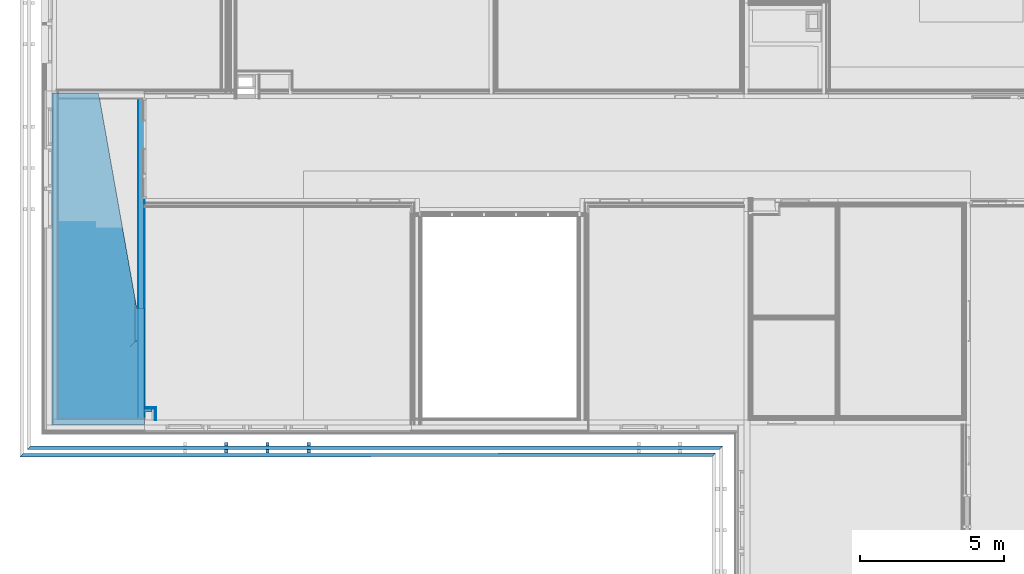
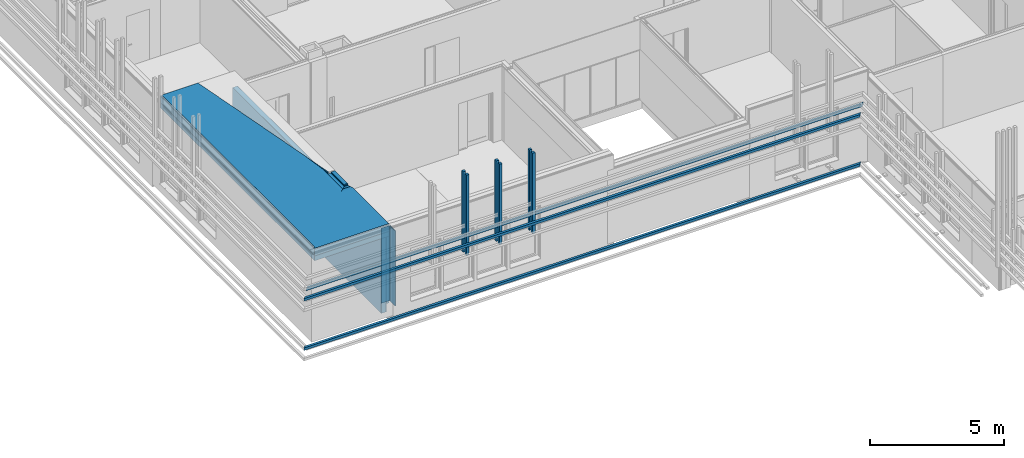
# One storey, part 80 of 139: 14 building element parts, 5 discrete accessories, 1 opening, 4 elements without a shape of their own.
"""IFC2X3 building model written with IfcOpenShell, lengths in millimetres."""

from ifc_helpers import new_model, entity, si_unit, converted_unit, derived_unit, money_unit, direction, frame, origin_with_axes, place, context, subcontext, project, spatial, faceted_brep, material, material_list, type_object, element, aggregate, save


model = new_model("IFC2X3")

# Units and contexts
model_context = context("Model", 3, precision=0.01, world=origin_with_axes(), true_north=direction((0.0, 1.0)))
body_context = subcontext(model_context, "Body", "Model", "MODEL_VIEW")
ifc_project = project(units=[si_unit("LENGTHUNIT", "METRE", prefix="MILLI"), si_unit("AREAUNIT", "SQUARE_METRE"), si_unit("VOLUMEUNIT", "CUBIC_METRE"), converted_unit("PLANEANGLEUNIT", "DEGREE", entity("IfcPlaneAngleMeasure", 0.0174532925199), si_unit("PLANEANGLEUNIT", "RADIAN"), dimensions=[0, 0, 0, 0, 0, 0, 0]), money_unit("EUR"), converted_unit("TIMEUNIT", "Year", entity("IfcTimeMeasure", 31556926.0), si_unit("TIMEUNIT", "SECOND"), dimensions=[0, 0, 1, 0, 0, 0, 0]), si_unit("MASSUNIT", "GRAM", prefix="KILO"), si_unit("THERMODYNAMICTEMPERATUREUNIT", "DEGREE_CELSIUS"), si_unit("LUMINOUSINTENSITYUNIT", "LUMEN"), si_unit("ENERGYUNIT", "JOULE", prefix="MEGA"), derived_unit("THERMALCONDUCTANCEUNIT", [(si_unit("POWERUNIT", "WATT"), 1), (si_unit("LENGTHUNIT", "METRE"), -1), (si_unit("THERMODYNAMICTEMPERATUREUNIT", "KELVIN"), -1)]), derived_unit("SPECIFICHEATCAPACITYUNIT", [(si_unit("ENERGYUNIT", "JOULE"), 1), (si_unit("MASSUNIT", "GRAM", prefix="KILO"), -1), (si_unit("THERMODYNAMICTEMPERATUREUNIT", "KELVIN"), -1)]), derived_unit("MASSDENSITYUNIT", [(si_unit("MASSUNIT", "GRAM", prefix="KILO"), 1), (si_unit("VOLUMEUNIT", "CUBIC_METRE"), -1)])], contexts=[model_context])

# Site, building, storey
site_placement = place(None, origin_with_axes())
site = spatial("IfcSite", under=ifc_project, at=site_placement, Name="Kolde pst 67a", CompositionType="ELEMENT")
building_placement = place(site_placement, origin_with_axes())
building = spatial("IfcBuilding", under=site, at=building_placement, Name="Riigigümnaasium", CompositionType="ELEMENT")
storey_placement = place(building_placement, frame((0.0, 0.0, 4600.0), z_axis=(0.0, 0.0, 1.0), x_axis=(1.0, 0.0, 0.0)))
storey = spatial("IfcBuildingStorey", under=building, at=storey_placement, Name="2. korrus", CompositionType="ELEMENT", Elevation=4600.0)

# Discrete accessories
ifc_material_1 = material(Name="_VÄLISVIIMISTLUS - sõrmjätkatud puitprussid 120x115mm, liitekohad vähemärgatavad, Platowood sõrmjätkatud kuusk või samaväärne; eeltöödeldud tuletõkkevõõbaga, tuletundlikkus B-s1, d0, Woodsafe Exterior WFX™ või samaväärne; kinnitused vastavalt EK osale")
ifc_material_list = material_list([ifc_material_1, ifc_material_1])
discrete_accessory_type_1 = type_object("IfcDiscreteAccessoryType", Name="1+paiksekaitse 4 tk nihkes 2 370 x 355")
discrete_accessory_1_placement = place(storey_placement, frame((-323.006615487, 47673.7129518, 2630.0), z_axis=(0.0, 0.0, 1.0), x_axis=(0.00030565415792, -0.999999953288, 0.0)))
element("IfcDiscreteAccessory", 1, at=discrete_accessory_1_placement, inside=storey, type_object=discrete_accessory_type_1, material=ifc_material_list, Name="Päikesevarjestus", context=body_context, shape_type="Brep", body=[
    faceted_brep([(495.0, 1345.3259295, 357.5), (493.447495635, 1345.32649514, 357.364173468), (493.489394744, 1460.32648751, 357.367839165), (495.0, 1460.32593714, 357.5), (495.0, 2060.31977462, 357.5), (493.66588954, 2060.3201824, 357.383280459), (493.701039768, 2175.32017703, 357.386355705), (495.0, 2175.31977999, 357.5), (495.0, 2775.32748314, 357.5), (493.937983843, 2775.32787008, 357.407085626), (493.979882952, 2890.32786245, 357.410751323), (495.0, 2890.32749078, 357.5), (495.0, 3490.31984142, 357.5), (494.102974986, 3490.3201156, 357.42152048), (494.138125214, 3605.32011023, 357.424595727), (495.0, 3605.31984679, 357.5), (495.0, 4205.32757559, 357.5), (494.42847155, 4205.32778382, 357.44999774), (494.470370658, 4320.32777619, 357.453663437), (495.0, 4320.32758322, 357.5), (495.0, 4920.31990822, 357.5), (494.540060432, 4920.3200488, 357.459760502), (494.57521066, 5035.32004343, 357.462835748), (495.0, 5035.31991359, 357.5), (495.0, 5635.32912923, 357.5), (494.918959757, 5635.32915876, 357.492909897), (494.960858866, 5750.32915113, 357.496575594), (495.0, 5750.32913687, 357.5), (495.0, 6350.31997502, 357.5), (494.977145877, 6350.319982, 357.498000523), (495.0, 6425.09115995, 357.5), (495.0, 23502.8623069, 357.5), (375.0, 23622.898991, 347.001360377), (375.0, -375.114708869, 347.001360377), (495.0, -495.151415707, 357.5), (495.0, 630.319707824, 357.5), (493.228804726, 630.320249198, 357.345040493), (493.263954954, 745.320243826, 357.348115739), (495.0, 745.319713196, 357.5), (495.0, 1345.3259295, 242.5), (493.447495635, 1345.32649514, 242.5), (493.489394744, 1460.32648751, 242.5), (495.0, 1460.32593714, 242.5), (495.0, 2060.31977462, 242.5), (493.66588954, 2060.3201824, 242.5), (493.701039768, 2175.32017703, 242.5), (495.0, 2175.31977999, 242.5), (495.0, 2775.32748314, 242.5), (493.937983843, 2775.32787008, 242.5), (493.979882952, 2890.32786245, 242.5), (495.0, 2890.32749078, 242.5), (495.0, 3490.31984142, 242.5), (494.102974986, 3490.3201156, 242.5), (494.138125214, 3605.32011023, 242.5), (495.0, 3605.31984679, 242.5), (495.0, 4205.32757559, 242.5), (494.42847155, 4205.32778382, 242.5), (494.470370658, 4320.32777619, 242.5), (495.0, 4320.32758322, 242.5), (495.0, 4920.31990822, 242.5), (494.540060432, 4920.3200488, 242.5), (494.57521066, 5035.32004343, 242.5), (495.0, 5035.31991359, 242.5), (495.0, 5635.32912923, 242.5), (494.918959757, 5635.32915876, 242.5), (494.960858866, 5750.32915113, 242.5), (495.0, 5750.32913687, 242.5), (495.0, 6350.31997502, 242.5), (494.977145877, 6350.319982, 242.5), (495.0, 6425.09115995, 242.5), (495.0, 23502.8623069, 242.5), (375.0, 23622.898991, 242.5), (375.0, -375.114708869, 242.5), (495.0, -495.151415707, 242.5), (495.0, 630.319707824, 242.5), (493.228804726, 630.320249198, 242.5), (493.263954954, 745.320243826, 242.5), (495.0, 745.319713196, 242.5)], [[[0, 1, 2, 3, 4, 5, 6, 7, 8, 9, 10, 11, 12, 13, 14, 15, 16, 17, 18, 19, 20, 21, 22, 23, 24, 25, 26, 27, 28, 29, 30, 31, 32, 33, 34, 35, 36, 37, 38]], [[1, 0, 39, 40]], [[2, 1, 40, 41]], [[3, 2, 41, 42]], [[3, 42, 43, 4]], [[5, 4, 43, 44]], [[6, 5, 44, 45]], [[7, 6, 45, 46]], [[47, 8, 7, 46]], [[9, 8, 47, 48]], [[10, 9, 48, 49]], [[11, 10, 49, 50]], [[11, 50, 51, 12]], [[13, 12, 51, 52]], [[14, 13, 52, 53]], [[15, 14, 53, 54]], [[55, 16, 15, 54]], [[17, 16, 55, 56]], [[18, 17, 56, 57]], [[19, 18, 57, 58]], [[19, 58, 59, 20]], [[21, 20, 59, 60]], [[22, 21, 60, 61]], [[23, 22, 61, 62]], [[63, 24, 23, 62]], [[25, 24, 63, 64]], [[26, 25, 64, 65]], [[27, 26, 65, 66]], [[27, 66, 67, 28]], [[29, 28, 67, 68]], [[69, 30, 29, 68]], [[30, 69, 70, 31]], [[71, 32, 31, 70]], [[71, 72, 33, 32]], [[72, 73, 34, 33]], [[74, 35, 34, 73]], [[36, 35, 74, 75]], [[37, 36, 75, 76]], [[38, 37, 76, 77]], [[39, 0, 38, 77]], [[40, 39, 77, 76, 75, 74, 73, 72, 71, 70, 69, 68, 67, 66, 65, 64, 63, 62, 61, 60, 59, 58, 57, 56, 55, 54, 53, 52, 51, 50, 49, 48, 47, 46, 45, 44, 43, 42, 41]]]),
    faceted_brep([(745.0, 1345.23484448, 117.5), (743.447479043, 1345.23541012, 117.364172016), (743.489378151, 1460.23540249, 117.367837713), (745.0, 1460.23485211, 117.5), (745.0, 2775.23639812, 117.5), (743.93796725, 2775.23678506, 117.407084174), (743.979866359, 2890.23677743, 117.410749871), (745.0, 2890.23640575, 117.5), (745.0, 4205.23649057, 117.5), (744.428454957, 4205.2366988, 117.449996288), (744.470354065, 4320.23669117, 117.453661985), (745.0, 4320.2364982, 117.5), (745.0, 5635.23804421, 117.5), (744.918943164, 5635.23807374, 117.492908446), (744.960842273, 5750.23806611, 117.496574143), (745.0, 5750.23805184, 117.5), (745.0, 23252.7858817, 117.5), (625.0, 23372.8225658, 107.001360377), (625.0, -625.191181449, 107.001360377), (745.0, -745.227888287, 117.5), (745.0, 1345.23484448, 2.5), (743.447479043, 1345.23541012, 2.5), (743.489378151, 1460.23540249, 2.5), (745.0, 1460.23485211, 2.5), (745.0, 2775.23639812, 2.5), (743.93796725, 2775.23678506, 2.5), (743.979866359, 2890.23677743, 2.5), (745.0, 2890.23640575, 2.5), (745.0, 4205.23649057, 2.5), (744.428454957, 4205.2366988, 2.5), (744.470354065, 4320.23669117, 2.5), (745.0, 4320.2364982, 2.5), (745.0, 5635.23804421, 2.5), (744.918943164, 5635.23807374, 2.5), (744.960842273, 5750.23806611, 2.5), (745.0, 5750.23805184, 2.5), (745.0, 23252.7858817, 2.5), (625.0, 23372.8225658, 2.5), (625.0, -625.191181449, 2.5), (745.0, -745.227888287, 2.5)], [[[0, 1, 2, 3, 4, 5, 6, 7, 8, 9, 10, 11, 12, 13, 14, 15, 16, 17, 18, 19]], [[1, 0, 20, 21]], [[2, 1, 21, 22]], [[3, 2, 22, 23]], [[3, 23, 24, 4]], [[5, 4, 24, 25]], [[6, 5, 25, 26]], [[7, 6, 26, 27]], [[7, 27, 28, 8]], [[9, 8, 28, 29]], [[10, 9, 29, 30]], [[11, 10, 30, 31]], [[11, 31, 32, 12]], [[13, 12, 32, 33]], [[14, 13, 33, 34]], [[15, 14, 34, 35]], [[15, 35, 36, 16]], [[37, 17, 16, 36]], [[37, 38, 18, 17]], [[38, 39, 19, 18]], [[20, 0, 19, 39]], [[21, 20, 39, 38, 37, 36, 35, 34, 33, 32, 31, 30, 29, 28, 27, 26, 25, 24, 23, 22]]]),
])
discrete_accessory_type_2 = type_object("IfcDiscreteAccessoryType", Name="1+paiksekaitse 3 370 x 115")
for number, where, z_axis, x_axis in (
    (2, (6144.9643617, 46713.6768307, 2150.0), (0.0, 0.0, 1.0), (0.0, 1.0, 0.0)),
    (3, (7574.9643617, 46713.6768307, 2150.0), (0.0, 0.0, 1.0), (0.0, 1.0, 0.0)),
    (4, (9004.9643617, 46713.6768307, 2150.0), (0.0, 0.0, 1.0), (0.0, 1.0, 0.0)),
):
    element("IfcDiscreteAccessory", number, at=place(storey_placement, frame(where, z_axis=z_axis, x_axis=x_axis)), inside=storey, type_object=discrete_accessory_type_2, material=ifc_material_list, Name="Päikesevarjestus", context=body_context, shape_type="Brep", body=[
        faceted_brep([(467.0, 117.5, 0.0), (347.0, 117.5, 0.0), (347.0, 117.5, 3670.0), (467.0, 117.5, 3670.0), (467.0, 2.5, 0.0), (347.0, 2.5, 0.0), (347.0, 2.5, 3670.0), (467.0, 2.5, 3670.0)], [[[0, 1, 2, 3]], [[0, 4, 5, 1]], [[1, 5, 6, 2]], [[3, 2, 6, 7]], [[4, 0, 3, 7]], [[5, 4, 7, 6]]]),
        faceted_brep([(717.0, 117.5, 0.0), (597.0, 117.5, 0.0), (597.0, 117.5, 3670.0), (717.0, 117.5, 3670.0), (717.0, 2.5, 0.0), (597.0, 2.5, 0.0), (597.0, 2.5, 3670.0), (717.0, 2.5, 3670.0)], [[[0, 1, 2, 3]], [[0, 4, 5, 1]], [[1, 5, 6, 2]], [[3, 2, 6, 7]], [[4, 0, 3, 7]], [[5, 4, 7, 6]]]),
    ])
discrete_accessory_type_3 = type_object("IfcDiscreteAccessoryType", Name="1+paiksekaitse 4 tk nihkes 1 120 x 115")
discrete_accessory_2_placement = place(storey_placement, frame((-323.006615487, 47673.7155051, 380.0), z_axis=(0.0, 0.0, 1.0), x_axis=(0.000305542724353, -0.999999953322, 0.0)))
element("IfcDiscreteAccessory", 5, at=discrete_accessory_2_placement, inside=storey, type_object=discrete_accessory_type_3, material=ifc_material_1, Name="Päikesevarjestus", context=body_context, shape_type="Brep", body=[
    faceted_brep([(745.0, -745.227805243, 117.5), (745.0, 1345.23492759, 117.5), (743.449882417, 1345.23549219, 117.364382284), (743.49176871, 1460.23548456, 117.36804686), (745.0, 1460.23493522, 117.5), (745.0, 2775.23648117, 117.5), (743.940211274, 2775.23686718, 117.407280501), (743.982097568, 2890.23685955, 117.410945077), (745.0, 2890.2364888, 117.5), (745.0, 4205.23657356, 117.5), (744.430539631, 4205.23678098, 117.450178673), (744.472425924, 4320.23677335, 117.453843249), (745.0, 4320.23658119, 117.5), (745.0, 5635.23812715, 117.5), (744.920868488, 5635.23815597, 117.49307689), (744.962754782, 5750.23814834, 117.496741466), (745.0, 5750.23813477, 117.5), (745.0, 23252.7859639, 117.5), (625.0, 23372.8226347, 107.001360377), (625.0, -625.191111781, 107.001360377), (745.0, -745.227805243, 2.5), (745.0, 1345.23492759, 2.5), (743.449882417, 1345.23549219, 2.5), (743.49176871, 1460.23548456, 2.5), (745.0, 1460.23493522, 2.5), (745.0, 2775.23648117, 2.5), (743.940211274, 2775.23686718, 2.5), (743.982097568, 2890.23685955, 2.5), (745.0, 2890.2364888, 2.5), (745.0, 4205.23657356, 2.5), (744.430539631, 4205.23678098, 2.5), (744.472425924, 4320.23677335, 2.5), (745.0, 4320.23658119, 2.5), (745.0, 5635.23812715, 2.5), (744.920868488, 5635.23815597, 2.5), (744.962754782, 5750.23814834, 2.5), (745.0, 5750.23813477, 2.5), (745.0, 23252.7859639, 2.5), (625.0, 23372.8226347, 2.5), (625.0, -625.191111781, 2.5)], [[[0, 1, 2, 3, 4, 5, 6, 7, 8, 9, 10, 11, 12, 13, 14, 15, 16, 17, 18, 19]], [[20, 21, 1, 0]], [[22, 2, 1, 21]], [[23, 3, 2, 22]], [[24, 4, 3, 23]], [[5, 4, 24, 25]], [[26, 6, 5, 25]], [[27, 7, 6, 26]], [[28, 8, 7, 27]], [[9, 8, 28, 29]], [[30, 10, 9, 29]], [[31, 11, 10, 30]], [[32, 12, 11, 31]], [[13, 12, 32, 33]], [[34, 14, 13, 33]], [[35, 15, 14, 34]], [[36, 16, 15, 35]], [[17, 16, 36, 37]], [[37, 38, 18, 17]], [[18, 38, 39, 19]], [[19, 39, 20, 0]], [[23, 22, 21, 20, 39, 38, 37, 36, 35, 34, 33, 32, 31, 30, 29, 28, 27, 26, 25, 24]]]),
])

# Wall, opening, building element parts
wall_type_1 = type_object("IfcWallType", Name="SS-RB-20/1_+2 krohv 55 dB 220", PredefinedType="NOTDEFINED")
wall_1_placement = place(storey_placement, frame((3040.03768339, 59349.9979478, -150.0), z_axis=(0.0, 0.0, 1.0), x_axis=(0.0, -1.0, 0.0)))
wall_1 = element("IfcWall", 6, at=wall_1_placement, inside=storey, type_object=wall_type_1, Name="Sisesein")
opening_placement = place(wall_1_placement, frame((1730.00176118, 0.0, 150.0), z_axis=(0.0, 0.0, 1.0), x_axis=(1.0, 0.0, 0.0)))
element("IfcOpeningElement", 7, at=opening_placement, cuts=wall_1, Name="Ava", context=body_context, shape_type="Brep", body=[
    faceted_brep([(1730.00176118, 220.0, 0.0), (1730.00176118, 220.0, 2300.0), (1730.00176118, -440.0, 2300.0), (1730.00176118, -440.0, 0.0), (-1730.00176118, 220.0, 0.0), (-1730.00176118, 220.0, 2300.0), (-1730.00176118, -440.0, 2300.0), (-1730.00176118, -440.0, 0.0)], [[[0, 1, 2, 3]], [[0, 4, 5, 1]], [[1, 5, 6, 2]], [[3, 2, 6, 7]], [[4, 0, 3, 7]], [[5, 4, 7, 6]]]),
])
ifc_material_2 = material(Name="_VIIMISTLUSKIHT - viimistlus vastavalt SA osale")
building_element_part_1_placement = place(wall_1_placement, origin_with_axes())
building_element_part_1 = element("IfcBuildingElementPart", 8, at=building_element_part_1_placement, material=ifc_material_2, Name="_VIIMISTLUSKIHT - viimistlus vastavalt SA osale", context=body_context, shape_type="Brep", body=[
    faceted_brep([(0.0, 210.0, 150.0), (3460.00352235, 210.0, 150.0), (3460.00352235, 210.0, 2450.0), (0.0, 210.0, 2450.0), (0.0, 210.0, 3570.0), (11110.017117, 210.0, 3570.0), (11110.017117, 210.0, 0.0), (0.0, 210.0, 0.0), (3460.00352235, 200.0, 150.0), (0.0, 200.0, 150.0), (3460.00352235, 200.0, 2450.0), (0.0, 200.0, 2450.0), (0.0, 200.0, 3570.0), (11110.017117, 200.0, 3570.0), (11110.017117, 200.0, 0.0), (0.0, 200.0, 0.0)], [[[0, 1, 2, 3, 4, 5, 6, 7]], [[8, 1, 0, 9]], [[10, 2, 1, 8]], [[10, 11, 3, 2]], [[4, 3, 11, 12]], [[13, 5, 4, 12]], [[6, 5, 13, 14]], [[6, 14, 15, 7]], [[15, 9, 0, 7]], [[10, 8, 9, 15, 14, 13, 12, 11]]]),
])
ifc_material_3 = material(Name="_KANDETARIND - monteeritav raudbetoon vastavalt EK osale")
building_element_part_2_placement = place(wall_1_placement, origin_with_axes())
building_element_part_2 = element("IfcBuildingElementPart", 9, at=building_element_part_2_placement, material=ifc_material_3, Name="_KANDETARIND - monteeritav raudbetoon vastavalt EK osale", context=body_context, shape_type="Brep", body=[
    faceted_brep([(0.0, 200.0, 150.0), (3460.00352235, 200.0, 150.0), (3460.00352235, 200.0, 2450.0), (0.0, 200.0, 2450.0), (0.0, 200.0, 3570.0), (11110.017117, 200.0, 3570.0), (11110.017117, 200.0, 0.0), (0.0, 200.0, 0.0), (3460.00352235, 0.0, 150.0), (0.0, 0.0, 150.0), (3460.00352235, 0.0, 2450.0), (0.0, 0.0, 2450.0), (0.0, 0.0, 3570.0), (11110.017117, 0.0, 3570.0), (11110.017117, 0.0, 0.0), (0.0, 0.0, 0.0)], [[[0, 1, 2, 3, 4, 5, 6, 7]], [[8, 1, 0, 9]], [[10, 2, 1, 8]], [[10, 11, 3, 2]], [[4, 3, 11, 12]], [[13, 5, 4, 12]], [[6, 5, 13, 14]], [[6, 14, 15, 7]], [[15, 9, 0, 7]], [[10, 8, 9, 15, 14, 13, 12, 11]]]),
])
building_element_part_3_placement = place(wall_1_placement, origin_with_axes())
building_element_part_3 = element("IfcBuildingElementPart", 10, at=building_element_part_3_placement, material=ifc_material_2, Name="_VIIMISTLUSKIHT - viimistlus vastavalt SA osale", context=body_context, shape_type="Brep", body=[
    faceted_brep([(0.0, 0.0, 150.0), (3460.00352235, 0.0, 150.0), (3460.00352235, 0.0, 2450.0), (0.0, 0.0, 2450.0), (0.0, 0.0, 3570.0), (11110.017117, 0.0, 3570.0), (11110.017117, 0.0, 0.0), (0.0, 0.0, 0.0), (3460.00352235, -10.0, 150.0), (0.0, -10.0, 150.0), (3460.00352235, -10.0, 2450.0), (0.0, -10.0, 2450.0), (0.0, -10.0, 3570.0), (11110.017117, -10.0, 3570.0), (11110.017117, -10.0, 0.0), (0.0, -10.0, 0.0)], [[[0, 1, 2, 3, 4, 5, 6, 7]], [[8, 1, 0, 9]], [[10, 2, 1, 8]], [[10, 11, 3, 2]], [[4, 3, 11, 12]], [[13, 5, 4, 12]], [[6, 5, 13, 14]], [[6, 14, 15, 7]], [[15, 9, 0, 7]], [[10, 8, 9, 15, 14, 13, 12, 11]]]),
])
aggregate(wall_1, [building_element_part_1, building_element_part_2, building_element_part_3])

# Slab, building element parts
slab_type = type_object("IfcSlabType", PredefinedType="ROOF")
slab_placement = place(storey_placement, frame((240.02813819, 59549.9979478, 3420.0), z_axis=(0.0, 0.0, 1.0), x_axis=(1.0, 0.0, 0.0)))
slab = element("IfcSlab", 11, at=slab_placement, inside=storey, type_object=slab_type, Name="Lamekatus", PredefinedType="ROOF")
ifc_material_4 = material(Name="_SOOJUSTUS - jäik mineraalvillaplaat, vastavalt RIL 107-2012-le, R3, survetugevus min 60kPa, soojuserijuhtivus λD<0,037 W/(mK), ISOVER OL-TOP või samaväärne")
building_element_part_4_placement = place(slab_placement, origin_with_axes())
building_element_part_4 = element("IfcBuildingElementPart", 12, at=building_element_part_4_placement, material=ifc_material_4, Name="_SOOJUSTUS - jäik mineraalvillaplaat, vastavalt RIL 107-2012-le, R3, survetugevus min 60kPa, soojuserijuhtivus λD<0,037 W/(mK), ISOVER OL-TOP või samaväärne", context=body_context, shape_type="Brep", body=[
    faceted_brep([(2684.20099102, -8625.78798747, 521.0), (2684.14526667, -8625.84371182, 521.0), (3009.9122511, -8625.84371182, 521.0), (3009.9122511, -11510.017117, 521.0), (-199.971779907, -11510.017117, 521.0), (-199.971779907, 0.0, 521.0), (1414.87456695, 0.0, 521.0), (2740.32281858, -7464.84564273, 521.0), (2740.26756705, -7464.84564273, 521.0), (2684.2009913, -7149.06885949, 521.0), (2499.01226263, -8810.97671588, 570.999998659), (2498.95653829, -8811.03244023, 570.999998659), (3009.9122511, -8659.17768383, 530.0), (3009.9122511, -8811.03244519, 571.0), (3009.9122511, -11510.017117, 571.0), (-199.971779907, -11510.017117, 571.0), (-199.971777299, -11440.017116, 570.999998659), (-199.971777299, -11440.017116, 550.0), (-199.971777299, 0.0, 550.0), (-146.971779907, 0.0, 550.0), (-146.971779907, 0.0, 571.0), (1414.87456695, 0.0, 571.0), (2740.32281858, -7464.84564273, 571.0), (2740.26756705, -7464.84564273, 570.999998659), (2499.01226287, -6106.05347683, 570.999998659), (-146.971779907, -11440.017116, 570.999998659), (-146.971779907, -11440.017116, 550.0)], [[[0, 1, 2, 3, 4, 5, 6, 7, 8, 9]], [[1, 0, 10, 11]], [[12, 2, 1, 11, 13]], [[12, 13, 14, 3, 2]], [[3, 14, 15, 4]], [[4, 15, 16, 17, 18, 5]], [[6, 5, 18, 19, 20, 21]], [[22, 7, 6, 21]], [[8, 7, 22, 23]], [[23, 24, 9, 8]], [[10, 0, 9, 24]], [[11, 10, 24, 23, 22, 21, 20, 25, 16, 15, 14, 13]], [[26, 17, 16, 25]], [[19, 18, 17, 26]], [[20, 19, 26, 25]]]),
    faceted_brep([(2845.1093331, -8464.87964537, 529.330910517), (3009.9122511, -8464.87964537, 529.330910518), (3009.9122511, -8464.87964558, 530.0), (3009.9122511, -8464.87964558, 551.08286834), (2845.10933314, -8464.87964558, 551.08286834), (3009.9122511, -8464.87964537, 521.0), (2845.1093331, -8464.87964537, 521.0), (3009.9122511, -7464.84564316, 521.0), (3009.9122511, -7464.84564316, 536.190287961), (3009.9122511, -8464.82391239, 536.190287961), (3009.9122511, -8464.82391239, 571.0), (3009.9122511, -8464.87964567, 571.0), (2845.10933316, -8464.87964567, 570.999998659), (2845.16506646, -8464.82391239, 570.999998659), (2845.16506651, -8464.82391243, 536.190287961), (2845.16506661, -8464.82391253, 521.0), (2845.16506661, -7464.84564316, 521.0), (2845.16506651, -7464.84564316, 536.190287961)], [[[0, 1, 2, 3, 4]], [[5, 1, 0, 6]], [[1, 5, 7, 8, 9, 10, 11, 3, 2]], [[4, 3, 11, 12]], [[6, 0, 4, 12, 13, 14, 15]], [[5, 6, 15, 16, 7]], [[7, 16, 17, 8]], [[8, 17, 14, 9]], [[9, 14, 13, 10]], [[12, 11, 10, 13]], [[14, 17, 16, 15]]]),
])
ifc_material_5 = material(Name="_SOOJUSTUS - mineraalvillaplaat, survetugevus min 60kPa, soojuserijuhtivus λD<0,037 W/(mK), ISOVER OL-P või samaväärne")
building_element_part_5_placement = place(slab_placement, origin_with_axes())
building_element_part_5 = element("IfcBuildingElementPart", 13, at=building_element_part_5_placement, material=ifc_material_5, Name="_SOOJUSTUS - mineraalvillaplaat, survetugevus min 60kPa, soojuserijuhtivus λD<0,037 W/(mK), ISOVER OL-P või samaväärne", context=body_context, shape_type="Brep", body=[
    faceted_brep([(2845.1093331, -8464.87964537, 521.0), (3009.9122511, -8464.87964537, 521.0), (3009.9122511, -7464.84564316, 521.0), (2845.16506661, -7464.84564316, 521.0), (2845.16506661, -8464.82391253, 521.0), (3009.9122511, -8464.87964537, 477.540534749), (2845.1093331, -8464.87964537, 477.555579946), (2845.1093331, -8464.87964537, 477.540534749), (3009.9122511, -8625.84371182, 521.0), (3009.9122511, -11510.017117, 521.0), (3009.9122511, -11510.017117, 221.0), (3009.9122511, -7464.84564316, 221.0), (2740.32281858, -7464.84564316, 221.0), (2740.32281858, -7464.84564273, 505.847396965), (2845.16506661, -7464.84564316, 477.540532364), (2845.16506661, -8464.82391253, 477.540532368), (2684.20099102, -8625.78798747, 521.0), (2684.14526667, -8625.84371182, 521.0), (2684.2009913, -7149.06885949, 521.0), (2740.26756705, -7464.84564273, 521.0), (2740.32281858, -7464.84564273, 521.0), (1414.87456695, 0.0, 521.0), (-199.971779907, 0.0, 521.0), (-199.971779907, -11510.017117, 521.0), (-199.971779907, -11510.017117, 221.0), (-199.971779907, 0.0, 221.0), (1414.87456695, 0.0, 221.0), (2740.26756705, -7464.84564273, 505.862314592)], [[[0, 1, 2, 3, 4]], [[5, 1, 0, 6, 7]], [[5, 8, 9, 10, 11, 2, 1]], [[12, 13, 14, 3, 2, 11]], [[15, 4, 3, 14]], [[6, 0, 4, 15]], [[6, 16, 17, 7]], [[8, 5, 7, 17]], [[17, 16, 18, 19, 20, 21, 22, 23, 9, 8]], [[23, 24, 10, 9]], [[10, 24, 25, 26, 12, 11]], [[21, 20, 13, 12, 26]], [[16, 6, 15, 14, 13, 27, 18]], [[27, 19, 18]], [[27, 13, 20, 19]], [[21, 26, 25, 22]], [[22, 25, 24, 23]]]),
])
ifc_material_6 = material(Name="_AURUTÕKE - külmkleebitav aurutõkkekile Bytum 400 või samaväärne")
building_element_part_6_placement = place(slab_placement, origin_with_axes())
building_element_part_6 = element("IfcBuildingElementPart", 14, at=building_element_part_6_placement, material=ifc_material_6, Name="_AURUTÕKE - külmkleebitav aurutõkkekile Bytum 400 või samaväärne", context=body_context, shape_type="Brep", body=[
    faceted_brep([(-199.971779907, -11510.017117, 220.0), (-199.971779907, -11510.017117, 221.0), (-199.971779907, 0.0, 221.0), (-199.971779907, 0.0, 220.0), (3009.9122511, -11510.017117, 220.0), (3009.9122511, -11510.017117, 221.0), (3009.9122511, -8464.82391253, 221.0), (3009.9122511, -7464.84564316, 221.0), (2740.32281858, -7464.84564316, 221.0), (1414.87456695, 0.0, 221.0), (1414.87456695, 0.0, 220.0), (2740.32281858, -7464.84564316, 220.0), (3009.9122511, -7464.84564316, 220.0), (3009.9122511, -8464.82391253, 220.0)], [[[0, 1, 2, 3]], [[4, 5, 1, 0]], [[2, 1, 5, 6, 7, 8, 9]], [[3, 2, 9, 10]], [[3, 10, 11, 12, 13, 4, 0]], [[13, 6, 5, 4]], [[12, 7, 6, 13]], [[11, 8, 7, 12]], [[10, 9, 8, 11]]]),
])
ifc_material_7 = material(Name="_KANDETARIND - raudbetoon C25/30 vastavalt EK osale")
building_element_part_7_placement = place(slab_placement, origin_with_axes())
building_element_part_7 = element("IfcBuildingElementPart", 15, at=building_element_part_7_placement, material=ifc_material_7, Name="_KANDETARIND - raudbetoon C25/30 vastavalt EK osale", context=body_context, shape_type="Brep", body=[
    faceted_brep([(-199.971779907, 0.0, 0.0), (-199.971779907, -11510.017117, 0.0), (-199.971779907, -11510.017117, 220.0), (-199.971779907, 0.0, 220.0), (1414.87456695, 0.0, 0.0), (2740.32281858, -7464.84564316, 0.0), (3009.9122511, -7464.84564316, 0.0), (3009.9122511, -8464.82391253, 0.0), (3009.9122511, -11510.017117, 0.0), (3009.9122511, -11510.017117, 220.0), (3009.9122511, -8464.82391253, 220.0), (3009.9122511, -7464.84564316, 220.0), (2740.32281858, -7464.84564316, 220.0), (1414.87456695, 0.0, 220.0)], [[[0, 1, 2, 3]], [[0, 4, 5, 6, 7, 8, 1]], [[1, 8, 9, 2]], [[3, 2, 9, 10, 11, 12, 13]], [[4, 0, 3, 13]], [[5, 4, 13, 12]], [[6, 5, 12, 11]], [[7, 6, 11, 10]], [[8, 7, 10, 9]]]),
])
aggregate(slab, [building_element_part_4, building_element_part_5, building_element_part_6, building_element_part_7])

# Wall, building element parts
wall_type_2 = type_object("IfcWallType", Name="SS-MK-10/2_šahti sein+plaat 140", PredefinedType="NOTDEFINED")
wall_2_placement = place(storey_placement, frame((3649.93990123, 48039.9808308, 0.0), z_axis=(0.0, 0.0, 1.0), x_axis=(0.0, 1.0, 0.0)))
wall_2 = element("IfcWall", 16, at=wall_2_placement, inside=storey, type_object=wall_type_2, Name="Varisein")
ifc_material_8 = material(Name="_PLAATMATERJAL - kipsplaat veekindel")
building_element_part_8_placement = place(wall_2_placement, origin_with_axes())
building_element_part_8 = element("IfcBuildingElementPart", 17, at=building_element_part_8_placement, material=ifc_material_8, Name="_PLAATMATERJAL - kipsplaat veekindel", context=body_context, shape_type="Brep", body=[
    faceted_brep([(572.531681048, 27.5, 0.0), (160.0, 27.5, 0.0), (160.0, 40.0, 0.0), (572.531681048, 40.0, 0.0), (572.531681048, 27.5, 3420.0), (160.0, 27.5, 3420.0), (160.0, 40.0, 3420.0), (572.531681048, 40.0, 3420.0)], [[[0, 1, 2, 3]], [[4, 5, 1, 0]], [[2, 1, 5, 6]], [[3, 2, 6, 7]], [[3, 7, 4, 0]], [[7, 6, 5, 4]]]),
])
building_element_part_9_placement = place(wall_2_placement, origin_with_axes())
building_element_part_9 = element("IfcBuildingElementPart", 18, at=building_element_part_9_placement, material=ifc_material_8, Name="_PLAATMATERJAL - kipsplaat veekindel", context=body_context, shape_type="Brep", body=[
    faceted_brep([(585.031681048, 15.0, 0.0), (160.0, 15.0, 0.0), (160.0, 27.5, 0.0), (585.031681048, 27.5, 0.0), (585.031681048, 15.0, 3420.0), (160.0, 15.0, 3420.0), (160.0, 27.5, 3420.0), (585.031681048, 27.5, 3420.0)], [[[0, 1, 2, 3]], [[4, 5, 1, 0]], [[2, 1, 5, 6]], [[3, 2, 6, 7]], [[3, 7, 4, 0]], [[7, 6, 5, 4]]]),
])
building_element_part_10_placement = place(wall_2_placement, origin_with_axes())
building_element_part_10 = element("IfcBuildingElementPart", 19, at=building_element_part_10_placement, material=ifc_material_2, Name="_VIIMISTLUSKIHT - viimistlus vastavalt SA osale", context=body_context, shape_type="Brep", body=[
    faceted_brep([(600.031681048, 0.0, 0.0), (160.0, 0.0, 0.0), (160.0, 15.0, 0.0), (600.031681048, 15.0, 0.0), (600.031681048, 0.0, 3420.0), (160.0, 0.0, 3420.0), (160.0, 15.0, 3420.0), (600.031681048, 15.0, 3420.0)], [[[0, 1, 2, 3]], [[4, 5, 1, 0]], [[2, 1, 5, 6]], [[3, 2, 6, 7]], [[3, 7, 4, 0]], [[7, 6, 5, 4]]]),
])
aggregate(wall_2, [building_element_part_8, building_element_part_9, building_element_part_10])

wall_3_placement = place(storey_placement, frame((3649.93990123, 48640.0125119, 0.0), z_axis=(0.0, 0.0, 1.0), x_axis=(-1.0, 0.0, 0.0)))
wall_3 = element("IfcWall", 20, at=wall_3_placement, inside=storey, type_object=wall_type_2, Name="Varisein")
ifc_material_9 = material(Name="_KARKASS - metallkarkass CW 100/50/06 ja UW 100/40/06, samm 600, vahel mineraalvill, helineeldetegur αw = 1.0,  ISOVER ACOUSTIC 100mm või samaväärne")
building_element_part_11_placement = place(wall_3_placement, origin_with_axes())
building_element_part_11 = element("IfcBuildingElementPart", 21, at=building_element_part_11_placement, material=ifc_material_9, Name="_KARKASS - metallkarkass CW 100/50/06 ja UW 100/40/06, samm 600, vahel mineraalvill, helineeldetegur αw = 1.0,  ISOVER ACOUSTIC 100mm või samaväärne", context=body_context, shape_type="Brep", body=[
    faceted_brep([(399.999491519, 140.0, 0.0), (399.999491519, 40.0, 0.0), (140.0, 40.0, 0.0), (140.0, 140.0, 0.0), (399.999491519, 140.0, 3420.0), (399.999491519, 40.0, 3420.0), (140.0, 40.0, 3420.0), (140.0, 140.0, 3420.0)], [[[0, 1, 2, 3]], [[0, 4, 5, 1]], [[1, 5, 6, 2]], [[3, 2, 6, 7]], [[4, 0, 3, 7]], [[5, 4, 7, 6]]]),
])
building_element_part_12_placement = place(wall_3_placement, origin_with_axes())
building_element_part_12 = element("IfcBuildingElementPart", 22, at=building_element_part_12_placement, material=ifc_material_8, Name="_PLAATMATERJAL - kipsplaat veekindel", context=body_context, shape_type="Brep", body=[
    faceted_brep([(399.999491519, 40.0, 0.0), (399.999491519, 27.5, 0.0), (40.0, 27.5, 0.0), (40.0, 40.0, 0.0), (399.999491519, 40.0, 3420.0), (399.999491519, 27.5, 3420.0), (40.0, 27.5, 3420.0), (40.0, 40.0, 3420.0)], [[[0, 1, 2, 3]], [[0, 4, 5, 1]], [[1, 5, 6, 2]], [[3, 2, 6, 7]], [[4, 0, 3, 7]], [[5, 4, 7, 6]]]),
])
building_element_part_13_placement = place(wall_3_placement, origin_with_axes())
building_element_part_13 = element("IfcBuildingElementPart", 23, at=building_element_part_13_placement, material=ifc_material_8, Name="_PLAATMATERJAL - kipsplaat veekindel", context=body_context, shape_type="Brep", body=[
    faceted_brep([(399.999491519, 27.5, 0.0), (399.999491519, 15.0, 0.0), (27.5, 15.0, 0.0), (27.5, 27.5, 0.0), (399.999491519, 27.5, 3420.0), (399.999491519, 15.0, 3420.0), (27.5, 15.0, 3420.0), (27.5, 27.5, 3420.0)], [[[0, 1, 2, 3]], [[0, 4, 5, 1]], [[1, 5, 6, 2]], [[3, 2, 6, 7]], [[4, 0, 3, 7]], [[5, 4, 7, 6]]]),
])
building_element_part_14_placement = place(wall_3_placement, origin_with_axes())
building_element_part_14 = element("IfcBuildingElementPart", 24, at=building_element_part_14_placement, material=ifc_material_2, Name="_VIIMISTLUSKIHT - viimistlus vastavalt SA osale", context=body_context, shape_type="Brep", body=[
    faceted_brep([(399.999491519, 15.0, 0.0), (399.999491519, 0.0, 0.0), (15.0, 0.0, 0.0), (15.0, 15.0, 0.0), (399.999491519, 15.0, 3420.0), (399.999491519, 0.0, 3420.0), (15.0, 0.0, 3420.0), (15.0, 15.0, 3420.0)], [[[0, 1, 2, 3]], [[0, 4, 5, 1]], [[1, 5, 6, 2]], [[3, 2, 6, 7]], [[4, 0, 3, 7]], [[5, 4, 7, 6]]]),
])
aggregate(wall_3, [building_element_part_11, building_element_part_12, building_element_part_13, building_element_part_14])

save(model, "model.ifc")
